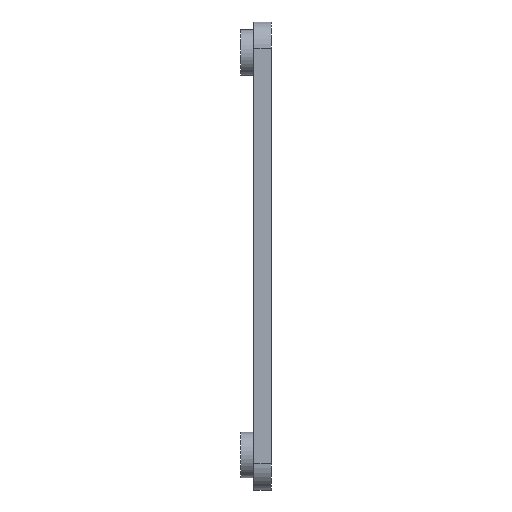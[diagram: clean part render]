
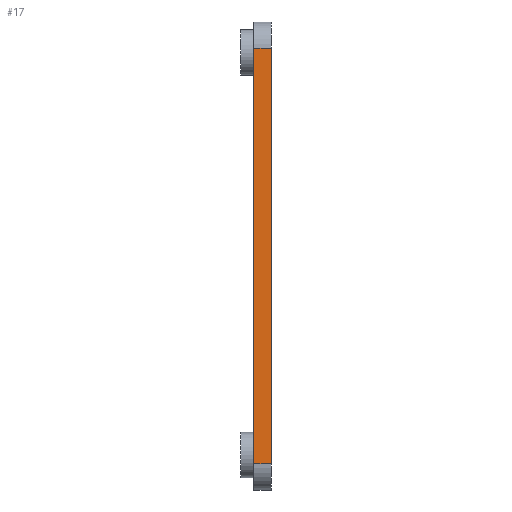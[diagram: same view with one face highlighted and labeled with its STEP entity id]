
A CAD part, left-side view. The second image highlights one B-rep face of the part: STEP entity #17.
In plain terms, the highlighted planar face has unit normal (-1, 0, 0).
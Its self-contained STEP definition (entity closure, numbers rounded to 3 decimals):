
#17 = ADVANCED_FACE('',(#18),#32,.F.);
#18 = FACE_BOUND('',#19,.F.);
#19 = EDGE_LOOP('',(#20,#55,#83,#111));
#20 = ORIENTED_EDGE('',*,*,#21,.F.);
#21 = EDGE_CURVE('',#22,#24,#26,.T.);
#22 = VERTEX_POINT('',#23);
#23 = CARTESIAN_POINT('',(-37.5,13.3,58.));
#24 = VERTEX_POINT('',#25);
#25 = CARTESIAN_POINT('',(-37.5,13.3,105.5));
#26 = SURFACE_CURVE('',#27,(#31,#43),.PCURVE_S1.);
#27 = LINE('',#28,#29);
#28 = CARTESIAN_POINT('',(-37.5,13.3,55.));
#29 = VECTOR('',#30,1.);
#30 = DIRECTION('',(0.,0.,1.));
#31 = PCURVE('',#32,#37);
#32 = PLANE('',#33);
#33 = AXIS2_PLACEMENT_3D('',#34,#35,#36);
#34 = CARTESIAN_POINT('',(-37.5,13.3,55.));
#35 = DIRECTION('',(1.,0.,-0.));
#36 = DIRECTION('',(0.,0.,1.));
#37 = DEFINITIONAL_REPRESENTATION('',(#38),#42);
#38 = LINE('',#39,#40);
#39 = CARTESIAN_POINT('',(0.,0.));
#40 = VECTOR('',#41,1.);
#41 = DIRECTION('',(1.,0.));
#42 = ( GEOMETRIC_REPRESENTATION_CONTEXT(2) 
PARAMETRIC_REPRESENTATION_CONTEXT() REPRESENTATION_CONTEXT('2D SPACE',''
  ) );
#43 = PCURVE('',#44,#49);
#44 = PLANE('',#45);
#45 = AXIS2_PLACEMENT_3D('',#46,#47,#48);
#46 = CARTESIAN_POINT('',(-37.5,13.3,55.));
#47 = DIRECTION('',(-0.,1.,0.));
#48 = DIRECTION('',(0.,0.,1.));
#49 = DEFINITIONAL_REPRESENTATION('',(#50),#54);
#50 = LINE('',#51,#52);
#51 = CARTESIAN_POINT('',(0.,0.));
#52 = VECTOR('',#53,1.);
#53 = DIRECTION('',(1.,0.));
#54 = ( GEOMETRIC_REPRESENTATION_CONTEXT(2) 
PARAMETRIC_REPRESENTATION_CONTEXT() REPRESENTATION_CONTEXT('2D SPACE',''
  ) );
#55 = ORIENTED_EDGE('',*,*,#56,.T.);
#56 = EDGE_CURVE('',#22,#57,#59,.T.);
#57 = VERTEX_POINT('',#58);
#58 = CARTESIAN_POINT('',(-37.5,15.3,58.));
#59 = SURFACE_CURVE('',#60,(#64,#71),.PCURVE_S1.);
#60 = LINE('',#61,#62);
#61 = CARTESIAN_POINT('',(-37.5,13.3,58.));
#62 = VECTOR('',#63,1.);
#63 = DIRECTION('',(-0.,1.,0.));
#64 = PCURVE('',#32,#65);
#65 = DEFINITIONAL_REPRESENTATION('',(#66),#70);
#66 = LINE('',#67,#68);
#67 = CARTESIAN_POINT('',(3.,0.));
#68 = VECTOR('',#69,1.);
#69 = DIRECTION('',(0.,-1.));
#70 = ( GEOMETRIC_REPRESENTATION_CONTEXT(2) 
PARAMETRIC_REPRESENTATION_CONTEXT() REPRESENTATION_CONTEXT('2D SPACE',''
  ) );
#71 = PCURVE('',#72,#77);
#72 = CYLINDRICAL_SURFACE('',#73,3.);
#73 = AXIS2_PLACEMENT_3D('',#74,#75,#76);
#74 = CARTESIAN_POINT('',(-34.5,13.3,58.));
#75 = DIRECTION('',(-0.,1.,0.));
#76 = DIRECTION('',(-1.,-0.,0.));
#77 = DEFINITIONAL_REPRESENTATION('',(#78),#82);
#78 = LINE('',#79,#80);
#79 = CARTESIAN_POINT('',(-0.,0.));
#80 = VECTOR('',#81,1.);
#81 = DIRECTION('',(-0.,1.));
#82 = ( GEOMETRIC_REPRESENTATION_CONTEXT(2) 
PARAMETRIC_REPRESENTATION_CONTEXT() REPRESENTATION_CONTEXT('2D SPACE',''
  ) );
#83 = ORIENTED_EDGE('',*,*,#84,.T.);
#84 = EDGE_CURVE('',#57,#85,#87,.T.);
#85 = VERTEX_POINT('',#86);
#86 = CARTESIAN_POINT('',(-37.5,15.3,105.5));
#87 = SURFACE_CURVE('',#88,(#92,#99),.PCURVE_S1.);
#88 = LINE('',#89,#90);
#89 = CARTESIAN_POINT('',(-37.5,15.3,55.));
#90 = VECTOR('',#91,1.);
#91 = DIRECTION('',(0.,0.,1.));
#92 = PCURVE('',#32,#93);
#93 = DEFINITIONAL_REPRESENTATION('',(#94),#98);
#94 = LINE('',#95,#96);
#95 = CARTESIAN_POINT('',(0.,-2.));
#96 = VECTOR('',#97,1.);
#97 = DIRECTION('',(1.,0.));
#98 = ( GEOMETRIC_REPRESENTATION_CONTEXT(2) 
PARAMETRIC_REPRESENTATION_CONTEXT() REPRESENTATION_CONTEXT('2D SPACE',''
  ) );
#99 = PCURVE('',#100,#105);
#100 = PLANE('',#101);
#101 = AXIS2_PLACEMENT_3D('',#102,#103,#104);
#102 = CARTESIAN_POINT('',(-37.5,15.3,55.));
#103 = DIRECTION('',(-0.,1.,0.));
#104 = DIRECTION('',(0.,0.,1.));
#105 = DEFINITIONAL_REPRESENTATION('',(#106),#110);
#106 = LINE('',#107,#108);
#107 = CARTESIAN_POINT('',(0.,0.));
#108 = VECTOR('',#109,1.);
#109 = DIRECTION('',(1.,0.));
#110 = ( GEOMETRIC_REPRESENTATION_CONTEXT(2) 
PARAMETRIC_REPRESENTATION_CONTEXT() REPRESENTATION_CONTEXT('2D SPACE',''
  ) );
#111 = ORIENTED_EDGE('',*,*,#112,.F.);
#112 = EDGE_CURVE('',#24,#85,#113,.T.);
#113 = SURFACE_CURVE('',#114,(#118,#125),.PCURVE_S1.);
#114 = LINE('',#115,#116);
#115 = CARTESIAN_POINT('',(-37.5,13.3,105.5));
#116 = VECTOR('',#117,1.);
#117 = DIRECTION('',(-0.,1.,0.));
#118 = PCURVE('',#32,#119);
#119 = DEFINITIONAL_REPRESENTATION('',(#120),#124);
#120 = LINE('',#121,#122);
#121 = CARTESIAN_POINT('',(50.5,0.));
#122 = VECTOR('',#123,1.);
#123 = DIRECTION('',(0.,-1.));
#124 = ( GEOMETRIC_REPRESENTATION_CONTEXT(2) 
PARAMETRIC_REPRESENTATION_CONTEXT() REPRESENTATION_CONTEXT('2D SPACE',''
  ) );
#125 = PCURVE('',#126,#131);
#126 = CYLINDRICAL_SURFACE('',#127,3.);
#127 = AXIS2_PLACEMENT_3D('',#128,#129,#130);
#128 = CARTESIAN_POINT('',(-34.5,13.3,105.5));
#129 = DIRECTION('',(-0.,1.,0.));
#130 = DIRECTION('',(-1.,-0.,0.));
#131 = DEFINITIONAL_REPRESENTATION('',(#132),#136);
#132 = LINE('',#133,#134);
#133 = CARTESIAN_POINT('',(0.,0.));
#134 = VECTOR('',#135,1.);
#135 = DIRECTION('',(0.,1.));
#136 = ( GEOMETRIC_REPRESENTATION_CONTEXT(2) 
PARAMETRIC_REPRESENTATION_CONTEXT() REPRESENTATION_CONTEXT('2D SPACE',''
  ) );
